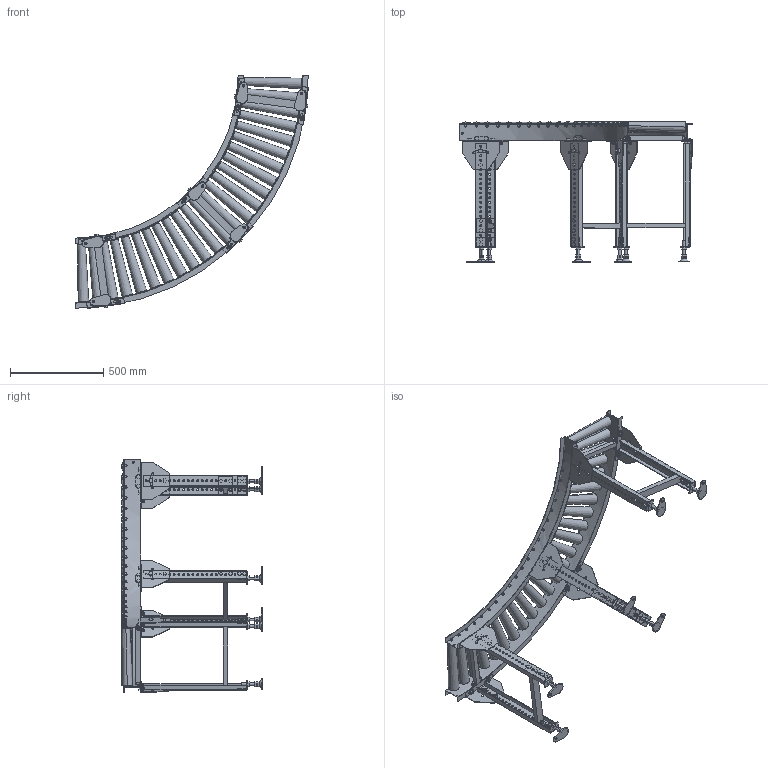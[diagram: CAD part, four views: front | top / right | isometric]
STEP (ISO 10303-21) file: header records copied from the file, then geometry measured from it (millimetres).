
FILE_DESCRIPTION (( 'STEP AP214' ), '1' );
FILE_NAME ('JRT-C9-315-75-90.STEP', '2022-09-28T23:24:58', ( '' ), ( '' ), 'SwSTEP 2.0', 'SolidWorks 2017', '' );
FILE_SCHEMA (( 'AUTOMOTIVE_DESIGN' ));
Length unit declared in the file: millimetre
Products named in the file (1): JRT-C9-315-75-90
Bounding box: 1245.9 x 750 x 1245.9 mm (x, y, z)
Volume: 19883568.2 mm3; surface area: 3744115.6 mm2
Topology: 28 solids, 58 shells, 3330 faces, 7956 edges, 5016 vertices
Faces by surface type: plane 2330, cylinder 940, cone 60
Entity records: 142292 total; most frequent: CARTESIAN_POINT 25934, DIRECTION 16946, ORIENTED_EDGE 15912, EDGE_CURVE 7956, AXIS2_PLACEMENT_3D 5945, LINE 5056, VECTOR 5056, VERTEX_POINT 5016
